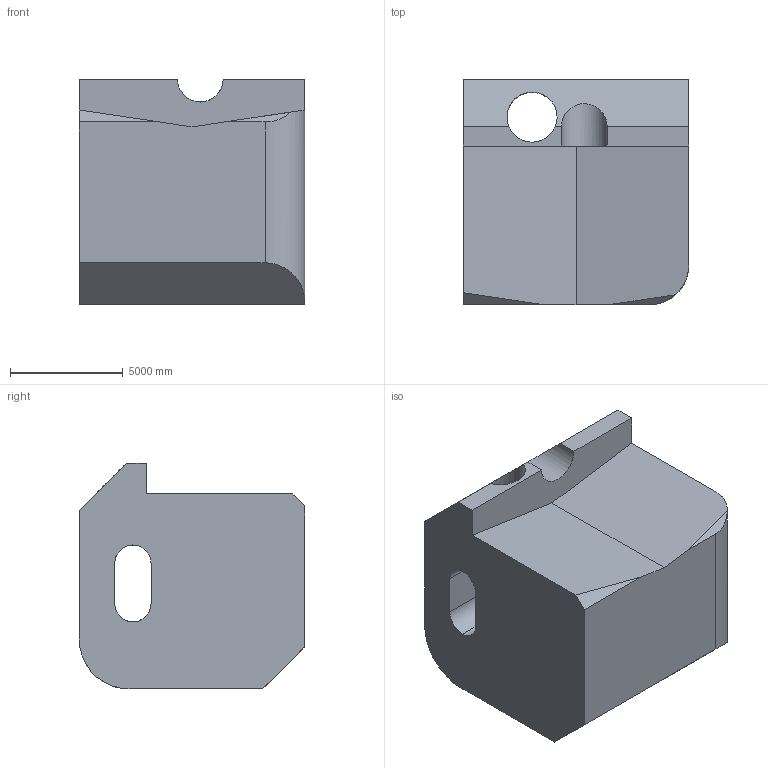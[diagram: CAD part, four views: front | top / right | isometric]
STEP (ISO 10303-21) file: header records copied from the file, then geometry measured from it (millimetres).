
FILE_DESCRIPTION (( 'STEP AP203' ), '1' );
FILE_NAME ('1985.STEP', '2022-08-23T10:16:36', ( 'user' ), ( '' ), 'SwSTEP 2.0', 'SolidWorks 2021', '' );
FILE_SCHEMA (( 'CONFIG_CONTROL_DESIGN' ));
Length unit declared in the file: centimetre
Products named in the file (1): 1985
Bounding box: 10000 x 10000 x 10000 mm (x, y, z)
Volume: 729966049931.7 mm3; surface area: 663898927.7 mm2
Topology: 1 solids, 1 shells, 35 faces, 111 edges, 74 vertices
Faces by surface type: plane 19, cylinder 16
Entity records: 2088 total; most frequent: CARTESIAN_POINT 1039, ORIENTED_EDGE 222, DIRECTION 184, EDGE_CURVE 111, VERTEX_POINT 74, VECTOR 66, LINE 66, AXIS2_PLACEMENT_3D 59
